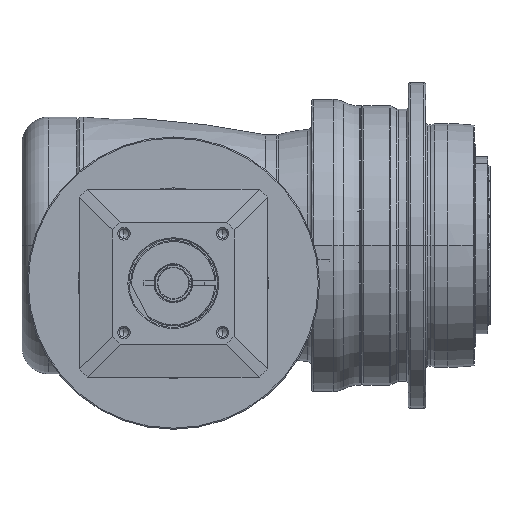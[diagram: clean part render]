
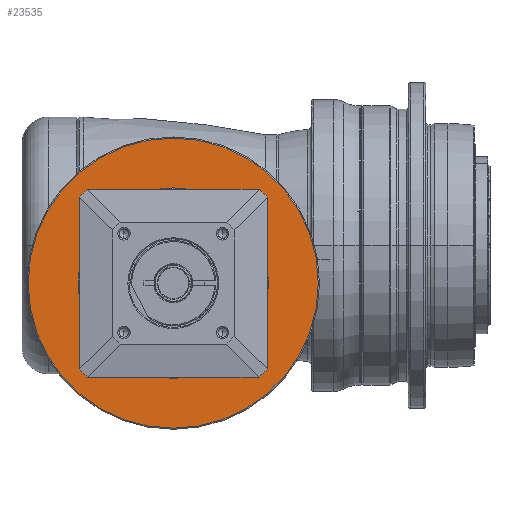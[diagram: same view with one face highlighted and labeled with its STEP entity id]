
A CAD part, front view. The second image highlights one B-rep face of the part: STEP entity #23535.
In plain terms, the highlighted planar face has unit normal (0, -1, 0) as drawn and (1, 0, 0) by its records, which use the part's own axes.
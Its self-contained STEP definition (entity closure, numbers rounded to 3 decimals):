
#22224=CARTESIAN_POINT('',(-9.,0.,0.));
#22225=DIRECTION('',(-1.,0.,0.));
#22226=DIRECTION('',(0.,-1.,0.));
#22227=AXIS2_PLACEMENT_3D('',#22224,#22225,#22226);
#22229=CARTESIAN_POINT('',(-9.,0.,0.));
#22230=DIRECTION('',(-1.,0.,0.));
#22231=DIRECTION('',(0.,1.,0.));
#22232=AXIS2_PLACEMENT_3D('',#22229,#22230,#22231);
#22234=CARTESIAN_POINT('',(-9.,0.,0.));
#22235=DIRECTION('',(-1.,0.,0.));
#22236=DIRECTION('',(0.,-1.,0.));
#22237=AXIS2_PLACEMENT_3D('',#22234,#22235,#22236);
#22239=CARTESIAN_POINT('',(-9.,0.,0.));
#22240=DIRECTION('',(-1.,0.,0.));
#22241=DIRECTION('',(0.,1.,0.));
#22242=AXIS2_PLACEMENT_3D('',#22239,#22240,#22241);
#22512=CARTESIAN_POINT('',(-9.,-65.5,0.));
#22513=CARTESIAN_POINT('',(-9.,65.5,0.));
#22514=VERTEX_POINT('',#22512);
#22515=VERTEX_POINT('',#22513);
#22570=CARTESIAN_POINT('',(-9.,-43.,0.));
#22571=CARTESIAN_POINT('',(-9.,43.,0.));
#22572=VERTEX_POINT('',#22570);
#22573=VERTEX_POINT('',#22571);
#23520=CARTESIAN_POINT('',(-9.,0.,0.));
#23521=DIRECTION('',(1.,0.,0.));
#23522=DIRECTION('',(0.,-1.,0.));
#23523=AXIS2_PLACEMENT_3D('',#23520,#23521,#23522);
#23524=PLANE('',#23523);
#23525=ORIENTED_EDGE('',*,*,#23476,.T.);
#23526=ORIENTED_EDGE('',*,*,#23461,.T.);
#23527=EDGE_LOOP('',(#23525,#23526));
#23528=FACE_OUTER_BOUND('',#23527,.F.);
#23530=ORIENTED_EDGE('',*,*,#23529,.F.);
#23532=ORIENTED_EDGE('',*,*,#23531,.F.);
#23533=EDGE_LOOP('',(#23530,#23532));
#23534=FACE_BOUND('',#23533,.F.);
#23535=ADVANCED_FACE('',(#23528,#23534),#23524,.T.);
#22228=CIRCLE('',#22227,43.);
#22233=CIRCLE('',#22232,43.);
#22238=CIRCLE('',#22237,65.5);
#22243=CIRCLE('',#22242,65.5);
#23461=EDGE_CURVE('',#22515,#22514,#22243,.T.);
#23476=EDGE_CURVE('',#22514,#22515,#22238,.T.);
#23529=EDGE_CURVE('',#22572,#22573,#22228,.T.);
#23531=EDGE_CURVE('',#22573,#22572,#22233,.T.);
